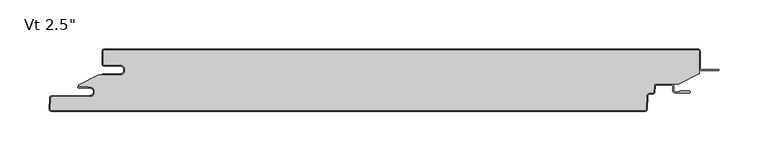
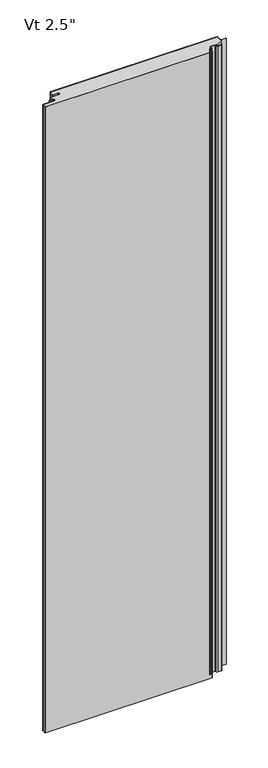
"""IFC4 building model written with IfcOpenShell, lengths in millimetres: plate geometry."""

from ifc_helpers import new_model, si_unit, point, frame, frame_2d, origin, origin_with_axes, place, context, project, spatial, polyline, circle_curve, ellipse_curve, trimmed, segment, composite_curve, outline, extrude, source, transform, mapped, element, save
from ifc_brep_helpers import plane_surface, cylinder_surface, revolved_surface, extruded_surface, advanced_brep


def plate_81533cbf(model_context):
    return source(origin(), model_context, "Body", "SolidModel", [
        extrude(outline(composite_curve([segment(polyline([(-285.74375, -16.4625), (-301.61875, -16.4625)]), True, "CONTINUOUS"), segment(trimmed(circle_curve(frame_2d((-301.61875, -15.08125)), 1.38125), [point((-301.61875, -16.4625))], [point((-303.0, -15.08125))], False, "CARTESIAN"), True, "CONTINUOUS"), segment(polyline([(-303.0, -15.08125), (-303.0, -2.38125)]), True, "CONTINUOUS"), segment(trimmed(circle_curve(frame_2d((-301.61875, -2.38125)), 1.38125), [point((-303.0, -2.38125))], [point((-301.61875, -1.0))], False, "CARTESIAN"), True, "CONTINUOUS"), segment(polyline([(-301.61875, -1.0), (301.63125, -1.0)]), True, "CONTINUOUS"), segment(trimmed(circle_curve(frame_2d((301.63125, -2.38125)), 1.38125), [point((301.63125, -1.0))], [point((303.0125, -2.38125))], False, "CARTESIAN"), True, "CONTINUOUS"), segment(polyline([(303.0125, -2.38125), (303.0125, -24.9057308), (282.1955434, -35.5125), (259.7540783, -35.5125)]), True, "CONTINUOUS"), segment(trimmed(circle_curve(frame_2d((259.7540783, -38.1)), 2.5875), [point((259.7540783, -35.5125))], [point((257.1701244, -37.9645807))], True, "CARTESIAN"), True, "CONTINUOUS"), segment(polyline([(257.1701244, -37.9645807), (256.8680481, -43.728539)]), True, "CONTINUOUS"), segment(trimmed(circle_curve(frame_2d((255.4886911, -43.65625)), 1.38125), [point((256.8680481, -43.728539))], [point((255.4886911, -45.0375))], False, "CARTESIAN"), True, "CONTINUOUS"), segment(polyline([(255.4886911, -45.0375), (252.4448847, -45.0375)]), True, "CONTINUOUS"), segment(trimmed(circle_curve(frame_2d((252.4448847, -47.625)), 2.5875), [point((252.4448847, -45.0375))], [point((249.8609307, -47.4895807))], True, "CARTESIAN"), True, "CONTINUOUS"), segment(polyline([(249.8609307, -47.4895807), (249.1428677, -61.191039)]), True, "CONTINUOUS"), segment(trimmed(circle_curve(frame_2d((247.7635107, -61.11875)), 1.38125), [point((249.1428677, -61.191039))], [point((247.7635107, -62.5))], False, "CARTESIAN"), True, "CONTINUOUS"), segment(polyline([(247.7635107, -62.5), (-355.4799535, -62.5)]), True, "CONTINUOUS"), segment(trimmed(circle_curve(frame_2d((-355.4799535, -61.11875)), 1.38125), [point((-355.4799535, -62.5))], [point((-356.8593106, -61.046461))], False, "CARTESIAN"), True, "CONTINUOUS"), segment(polyline([(-356.8593106, -61.046461), (-356.2769291, -49.933961)]), True, "CONTINUOUS"), segment(trimmed(circle_curve(frame_2d((-354.8975721, -50.00625)), 1.38125), [point((-356.2769291, -49.933961))], [point((-354.8975721, -48.625))], False, "CARTESIAN"), True, "CONTINUOUS"), segment(polyline([(-354.8975721, -48.625), (-316.7142674, -48.625)]), True, "CONTINUOUS"), segment(trimmed(circle_curve(frame_2d((-316.7142674, -43.65625)), 4.96875), [point((-316.7142674, -48.625))], [point((-316.7142674, -38.6875))], True, "CARTESIAN"), True, "CONTINUOUS"), segment(polyline([(-316.7142674, -38.6875), (-318.3017674, -38.89375), (-318.3017674, -38.1), (-327.8125, -38.1), (-327.8125, -36.5326309), (-307.9260922, -26.4), (-285.74375, -26.4)]), True, "CONTINUOUS"), segment(trimmed(circle_curve(frame_2d((-285.74375, -21.43125)), 4.96875), [point((-285.74375, -26.4))], [point((-285.74375, -16.4625))], True, "CARTESIAN"), True, "CONTINUOUS")], self_intersect=False)), origin_with_axes(), (0.0, 0.0, 1.0), 2400.0),
        extrude(outline(composite_curve([segment(polyline([(-304.0, -25.4), (-285.74375, -25.4)]), True, "CONTINUOUS"), segment(trimmed(circle_curve(frame_2d((-285.74375, -21.43125)), 3.96875), [point((-285.74375, -25.4))], [point((-285.74375, -17.4625))], True, "CARTESIAN"), True, "CONTINUOUS"), segment(polyline([(-285.74375, -17.4625), (-301.61875, -17.4625)]), True, "CONTINUOUS"), segment(trimmed(circle_curve(frame_2d((-301.61875, -15.08125)), 2.38125), [point((-301.61875, -17.4625))], [point((-304.0, -15.08125))], False, "CARTESIAN"), True, "CONTINUOUS"), segment(polyline([(-304.0, -15.08125), (-304.0, -2.38125)]), True, "CONTINUOUS"), segment(trimmed(circle_curve(frame_2d((-301.61875, -2.38125)), 2.38125), [point((-304.0, -2.38125))], [point((-301.61875, 0.0))], False, "CARTESIAN"), True, "CONTINUOUS"), segment(polyline([(-301.61875, 0.0), (301.63125, 0.0)]), True, "CONTINUOUS"), segment(trimmed(circle_curve(frame_2d((301.63125, -2.38125)), 2.38125), [point((301.63125, 0.0))], [point((304.0125, -2.38125))], False, "CARTESIAN"), True, "CONTINUOUS"), segment(polyline([(304.0125, -2.38125), (304.0125, -19.446875)]), True, "CONTINUOUS"), segment(trimmed(circle_curve(frame_2d((305.6, -19.446875)), 1.5875), [point((304.0125, -19.446875))], [point((305.6, -21.034375))], True, "CARTESIAN"), True, "CONTINUOUS"), segment(polyline([(305.6, -21.034375), (323.0625, -21.034375), (323.0625, -22.034375), (305.6, -22.034375)]), True, "CONTINUOUS"), segment(trimmed(circle_curve(frame_2d((305.6, -19.446875)), 2.5875), [point((305.6, -22.034375))], [point((303.0125, -19.446875))], False, "CARTESIAN"), True, "CONTINUOUS"), segment(polyline([(303.0125, -19.446875), (303.0125, -2.38125)]), True, "CONTINUOUS"), segment(trimmed(circle_curve(frame_2d((301.63125, -2.38125)), 1.38125), [point((303.0125, -2.38125))], [point((301.63125, -1.0))], True, "CARTESIAN"), True, "CONTINUOUS"), segment(polyline([(301.63125, -1.0), (-301.61875, -1.0)]), True, "CONTINUOUS"), segment(trimmed(circle_curve(frame_2d((-301.61875, -2.38125)), 1.38125), [point((-301.61875, -1.0))], [point((-303.0, -2.38125))], True, "CARTESIAN"), True, "CONTINUOUS"), segment(polyline([(-303.0, -2.38125), (-303.0, -15.08125)]), True, "CONTINUOUS"), segment(trimmed(circle_curve(frame_2d((-301.61875, -15.08125)), 1.38125), [point((-303.0, -15.08125))], [point((-301.61875, -16.4625))], True, "CARTESIAN"), True, "CONTINUOUS"), segment(polyline([(-301.61875, -16.4625), (-285.74375, -16.4625)]), True, "CONTINUOUS"), segment(trimmed(circle_curve(frame_2d((-285.74375, -21.43125)), 4.96875), [point((-285.74375, -16.4625))], [point((-285.74375, -26.4))], False, "CARTESIAN"), True, "CONTINUOUS"), segment(polyline([(-285.74375, -26.4), (-304.0, -26.4), (-304.0, -25.4)]), True, "CONTINUOUS")], self_intersect=False)), origin_with_axes(), (0.0, 0.0, 1.0), 2400.0),
        advanced_brep(
        [(-328.0252049, -38.1, 2400.0), (-328.0252049, -39.6875, 2400.0), (-316.7142674, -39.6875, 2400.0), (-316.7142674, -47.625, 2400.0), (-354.8975721, -47.625, 2400.0), (-357.2755586, -49.881625, 2400.0), (-357.8579401, -60.994125, 2400.0), (-355.4799535, -63.5, 2400.0), (247.7635107, -63.5, 2400.0), (250.1414973, -61.243375, 2400.0), (250.8595603, -47.5419167, 2400.0), (252.4448847, -46.0375, 2400.0), (255.4886911, -46.0375, 2400.0), (257.8666776, -43.780875, 2400.0), (258.1687539, -38.0169167, 2400.0), (259.7540783, -36.5125, 2400.0), (274.6294826, -36.5125, 2400.0), (276.2169826, -38.1, 2400.0), (276.2169826, -42.2671875, 2400.0), (278.5982326, -44.6484375, 2400.0), (293.0898532, -44.6484375, 2400.0), (293.0898532, -42.8546875, 2400.0), (283.3607326, -42.8546875, 2400.0), (283.3607326, -43.6484375, 2400.0), (278.5982326, -43.6484375, 2400.0), (277.2169826, -42.2671875, 2400.0), (277.2169826, -38.1, 2400.0), (274.6294826, -35.5125, 2400.0), (259.7540783, -35.5125, 2400.0), (257.1701244, -37.9645807, 2400.0), (256.8680481, -43.728539, 2400.0), (255.4886911, -45.0375, 2400.0), (252.4448847, -45.0375, 2400.0), (249.8609307, -47.4895807, 2400.0), (249.1428677, -61.191039, 2400.0), (247.7635107, -62.5, 2400.0), (-355.4799535, -62.5, 2400.0), (-356.8593106, -61.046461, 2400.0), (-356.2769291, -49.933961, 2400.0), (-354.8975721, -48.625, 2400.0), (-316.7142674, -48.625, 2400.0), (-316.7142674, -38.6875, 2400.0), (-318.3017674, -38.89375, 2400.0), (-318.3017674, -38.1, 2400.0), (-328.0252049, -38.1, 0.0), (-318.3017674, -38.1, 0.0), (-318.3017674, -38.89375, 0.0), (-316.7142674, -38.6875, 0.0), (-316.7142674, -48.625, 0.0), (-354.8975721, -48.625, 0.0), (-356.2769291, -49.933961, 0.0), (-356.8593106, -61.046461, 0.0), (-355.4799535, -62.5, 0.0), (247.7635107, -62.5, 0.0), (249.1428677, -61.191039, 0.0), (249.8609307, -47.4895807, 0.0), (252.4448847, -45.0375, 0.0), (255.4886911, -45.0375, 0.0), (256.8680481, -43.728539, 0.0), (257.1701244, -37.9645807, 0.0), (259.7540783, -35.5125, 0.0), (274.6294826, -35.5125, 0.0), (277.2169826, -38.1, 0.0), (277.2169826, -42.2671875, 0.0), (278.5982326, -43.6484375, 0.0), (283.3607326, -43.6484375, 0.0), (283.3607326, -42.8546875, 0.0), (293.0898532, -42.8546875, 0.0), (293.0898532, -44.6484375, 0.0), (278.5982326, -44.6484375, 0.0), (276.2169826, -42.2671875, 0.0), (276.2169826, -38.1, 0.0), (274.6294826, -36.5125, 0.0), (259.7540783, -36.5125, 0.0), (258.1687539, -38.0169167, 0.0), (257.8666776, -43.780875, 0.0), (255.4886911, -46.0375, 0.0), (252.4448847, -46.0375, 0.0), (250.8595603, -47.5419167, 0.0), (250.1414973, -61.243375, 0.0), (247.7635107, -63.5, 0.0), (-355.4799535, -63.5, 0.0), (-357.8579401, -60.994125, 0.0), (-357.2755586, -49.881625, 0.0), (-354.8975721, -47.625, 0.0), (-316.7142674, -47.625, 0.0), (-316.7142674, -39.6875, 0.0), (-328.0252049, -39.6875, 0.0)],
        [
            (0, 1, circle_curve(frame((-328.0252049, -38.89375, 2400.0), z_axis=(0.0, 0.0, 1.0), x_axis=(1.0, 0.0, 0.0)), 0.79375)),
            (1, 2),
            (2, 3, circle_curve(frame((-316.7142674, -43.65625, 2400.0), z_axis=(0.0, 0.0, -1.0), x_axis=(1.0, 0.0, 0.0)), 3.96875)),
            (3, 4),
            (4, 5, circle_curve(frame((-354.8975721, -50.00625, 2400.0), z_axis=(0.0, 0.0, 1.0), x_axis=(1.0, 0.0, 0.0)), 2.38125)),
            (5, 6),
            (6, 7, circle_curve(frame((-355.4799535, -61.11875, 2400.0), z_axis=(0.0, 0.0, 1.0), x_axis=(1.0, 0.0, 0.0)), 2.38125)),
            (7, 8),
            (8, 9, circle_curve(frame((247.7635107, -61.11875, 2400.0), z_axis=(0.0, 0.0, 1.0), x_axis=(1.0, 0.0, 0.0)), 2.38125)),
            (9, 10),
            (10, 11, circle_curve(frame((252.4448847, -47.625, 2400.0), z_axis=(0.0, 0.0, -1.0), x_axis=(1.0, 0.0, 0.0)), 1.5875)),
            (11, 12),
            (12, 13, circle_curve(frame((255.4886911, -43.65625, 2400.0), z_axis=(0.0, 0.0, 1.0), x_axis=(1.0, 0.0, 0.0)), 2.38125)),
            (13, 14),
            (14, 15, circle_curve(frame((259.7540783, -38.1, 2400.0), z_axis=(0.0, 0.0, -1.0), x_axis=(1.0, 0.0, 0.0)), 1.5875)),
            (15, 16),
            (16, 17, circle_curve(frame((274.6294826, -38.1, 2400.0), z_axis=(0.0, 0.0, -1.0), x_axis=(1.0, 0.0, 0.0)), 1.5875)),
            (17, 18),
            (18, 19, circle_curve(frame((278.5982326, -42.2671875, 2400.0), z_axis=(0.0, 0.0, 1.0), x_axis=(1.0, 0.0, 0.0)), 2.38125)),
            (19, 20),
            (20, 21, ellipse_curve(frame((293.0898532, -43.7515625, 2400.0), z_axis=(0.0, 0.0, 1.0), x_axis=(0.0, 1.0, 0.0)), 0.896875, 0.7852275)),
            (21, 22),
            (22, 23),
            (23, 24),
            (24, 25, circle_curve(frame((278.5982326, -42.2671875, 2400.0), z_axis=(0.0, 0.0, -1.0), x_axis=(1.0, 0.0, 0.0)), 1.38125)),
            (25, 26),
            (26, 27, circle_curve(frame((274.6294826, -38.1, 2400.0), z_axis=(0.0, 0.0, 1.0), x_axis=(1.0, 0.0, 0.0)), 2.5875)),
            (27, 28),
            (28, 29, circle_curve(frame((259.7540783, -38.1, 2400.0), z_axis=(0.0, 0.0, 1.0), x_axis=(1.0, 0.0, 0.0)), 2.5875)),
            (29, 30),
            (30, 31, circle_curve(frame((255.4886911, -43.65625, 2400.0), z_axis=(0.0, 0.0, -1.0), x_axis=(1.0, 0.0, 0.0)), 1.38125)),
            (31, 32),
            (32, 33, circle_curve(frame((252.4448847, -47.625, 2400.0), z_axis=(0.0, 0.0, 1.0), x_axis=(1.0, 0.0, 0.0)), 2.5875)),
            (33, 34),
            (34, 35, circle_curve(frame((247.7635107, -61.11875, 2400.0), z_axis=(0.0, 0.0, -1.0), x_axis=(1.0, 0.0, 0.0)), 1.38125)),
            (35, 36),
            (36, 37, circle_curve(frame((-355.4799535, -61.11875, 2400.0), z_axis=(0.0, 0.0, -1.0), x_axis=(1.0, 0.0, 0.0)), 1.38125)),
            (37, 38),
            (38, 39, circle_curve(frame((-354.8975721, -50.00625, 2400.0), z_axis=(0.0, 0.0, -1.0), x_axis=(1.0, 0.0, 0.0)), 1.38125)),
            (39, 40),
            (40, 41, circle_curve(frame((-316.7142674, -43.65625, 2400.0), z_axis=(0.0, 0.0, 1.0), x_axis=(1.0, 0.0, 0.0)), 4.96875)),
            (41, 42),
            (42, 43),
            (43, 0),
            (44, 45),
            (45, 46),
            (46, 47),
            (47, 48, circle_curve(frame((-316.7142674, -43.65625, 0.0), z_axis=(0.0, 0.0, -1.0), x_axis=(1.0, 0.0, 0.0)), 4.96875)),
            (48, 49),
            (49, 50, circle_curve(frame((-354.8975721, -50.00625, 0.0), z_axis=(0.0, 0.0, 1.0), x_axis=(1.0, 0.0, 0.0)), 1.38125)),
            (50, 51),
            (51, 52, circle_curve(frame((-355.4799535, -61.11875, 0.0), z_axis=(0.0, 0.0, 1.0), x_axis=(1.0, 0.0, 0.0)), 1.38125)),
            (52, 53),
            (53, 54, circle_curve(frame((247.7635107, -61.11875, 0.0), z_axis=(0.0, 0.0, 1.0), x_axis=(1.0, 0.0, 0.0)), 1.38125)),
            (54, 55),
            (55, 56, circle_curve(frame((252.4448847, -47.625, 0.0), z_axis=(0.0, 0.0, -1.0), x_axis=(1.0, 0.0, 0.0)), 2.5875)),
            (56, 57),
            (57, 58, circle_curve(frame((255.4886911, -43.65625, 0.0), z_axis=(0.0, 0.0, 1.0), x_axis=(1.0, 0.0, 0.0)), 1.38125)),
            (58, 59),
            (59, 60, circle_curve(frame((259.7540783, -38.1, 0.0), z_axis=(0.0, 0.0, -1.0), x_axis=(1.0, 0.0, 0.0)), 2.5875)),
            (60, 61),
            (61, 62, circle_curve(frame((274.6294826, -38.1, 0.0), z_axis=(0.0, 0.0, -1.0), x_axis=(1.0, 0.0, 0.0)), 2.5875)),
            (62, 63),
            (63, 64, circle_curve(frame((278.5982326, -42.2671875, 0.0), z_axis=(0.0, 0.0, 1.0), x_axis=(1.0, 0.0, 0.0)), 1.38125)),
            (64, 65),
            (65, 66),
            (66, 67),
            (67, 68, ellipse_curve(frame((293.0898532, -43.7515625, 0.0), z_axis=(0.0, 0.0, -1.0), x_axis=(0.0, 1.0, 0.0)), 0.896875, 0.7852275)),
            (68, 69),
            (69, 70, circle_curve(frame((278.5982326, -42.2671875, 0.0), z_axis=(0.0, 0.0, -1.0), x_axis=(1.0, 0.0, 0.0)), 2.38125)),
            (70, 71),
            (71, 72, circle_curve(frame((274.6294826, -38.1, 0.0), z_axis=(0.0, 0.0, 1.0), x_axis=(1.0, 0.0, 0.0)), 1.5875)),
            (72, 73),
            (73, 74, circle_curve(frame((259.7540783, -38.1, 0.0), z_axis=(0.0, 0.0, 1.0), x_axis=(1.0, 0.0, 0.0)), 1.5875)),
            (74, 75),
            (75, 76, circle_curve(frame((255.4886911, -43.65625, 0.0), z_axis=(0.0, 0.0, -1.0), x_axis=(1.0, 0.0, 0.0)), 2.38125)),
            (76, 77),
            (77, 78, circle_curve(frame((252.4448847, -47.625, 0.0), z_axis=(0.0, 0.0, 1.0), x_axis=(1.0, 0.0, 0.0)), 1.5875)),
            (78, 79),
            (79, 80, circle_curve(frame((247.7635107, -61.11875, 0.0), z_axis=(0.0, 0.0, -1.0), x_axis=(1.0, 0.0, 0.0)), 2.38125)),
            (80, 81),
            (81, 82, circle_curve(frame((-355.4799535, -61.11875, 0.0), z_axis=(0.0, 0.0, -1.0), x_axis=(1.0, 0.0, 0.0)), 2.38125)),
            (82, 83),
            (83, 84, circle_curve(frame((-354.8975721, -50.00625, 0.0), z_axis=(0.0, 0.0, -1.0), x_axis=(1.0, 0.0, 0.0)), 2.38125)),
            (84, 85),
            (85, 86, circle_curve(frame((-316.7142674, -43.65625, 0.0), z_axis=(0.0, 0.0, 1.0), x_axis=(1.0, 0.0, 0.0)), 3.96875)),
            (86, 87),
            (87, 44, circle_curve(frame((-328.0252049, -38.89375, 0.0), z_axis=(0.0, 0.0, -1.0), x_axis=(1.0, 0.0, 0.0)), 0.79375)),
            (20, 68),
            (67, 21),
            (66, 22),
            (65, 23),
            (41, 47),
            (46, 42),
            (45, 43),
            (40, 48),
            (39, 49),
            (38, 50),
            (37, 51),
            (33, 55),
            (54, 34),
            (32, 56),
            (31, 57),
            (30, 58),
            (29, 59),
            (28, 60),
            (64, 24),
            (63, 25),
            (62, 26),
            (61, 27),
            (18, 70),
            (69, 19),
            (17, 71),
            (16, 72),
            (15, 73),
            (14, 74),
            (13, 75),
            (12, 76),
            (11, 77),
            (10, 78),
            (9, 79),
            (5, 83),
            (82, 6),
            (4, 84),
            (3, 85),
            (2, 86),
            (1, 87),
            (0, 44),
            (36, 52),
            (35, 53),
            (8, 80),
            (7, 81),
        ],
        [
            plane_surface(frame((0.00625, -63.5, 2400.0), z_axis=(0.0, 0.0, 1.0), x_axis=(0.0, -1.0, 0.0))),
            plane_surface(frame((0.00625, -63.5, 0.0), z_axis=(0.0, 0.0, -1.0), x_axis=(0.0, -1.0, 0.0))),
            extruded_surface(trimmed(ellipse_curve(frame((293.0898532, -43.7515625, 2400.0), z_axis=(0.0, 0.0, -1.0), x_axis=(0.0, 1.0, 0.0)), 0.896875, 0.7852275), [point((293.0898532, -42.8546875, 2400.0))], [point((293.0898532, -44.6484375, 2400.0))], True, "CARTESIAN"), (0.0, 0.0, -2400.0), 2400.0),
            plane_surface(frame((283.3607326, -42.8546875, 2400.0), z_axis=(0.0, 1.0, 0.0), x_axis=(0.0, 0.0, -1.0))),
            plane_surface(frame((283.3607326, -43.6484375, 2400.0), z_axis=(-1.0, 0.0, 0.0), x_axis=(0.0, 0.0, -1.0))),
            plane_surface(frame((-318.3017674, -38.89375, 2400.0), z_axis=(-0.12883844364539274, 0.9916655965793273, 0.0), x_axis=(0.0, 0.0, -1.0))),
            plane_surface(frame((-318.3017674, -38.1, 2400.0), z_axis=(1.0, 0.0, 0.0), x_axis=(0.0, 0.0, -1.0))),
            cylinder_surface(frame((-316.7142674, -43.65625, 2400.0), z_axis=(0.0, 0.0, 1.0), x_axis=(1.0, 0.0, 0.0)), 4.96875),
            plane_surface(frame((-316.7142674, -48.625, 2400.0), z_axis=(0.0, -1.0, 0.0), x_axis=(0.0, 0.0, -1.0))),
            revolved_surface(polyline([(-353.51632209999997, -50.00625, 0.0), (-353.51632209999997, -50.00625, 2400.0)]), (-354.8975721, -50.00625, 2400.0), (0.0, 0.0, -1.0)),
            plane_surface(frame((-356.2769291, -49.933961, 2400.0), z_axis=(0.9986295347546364, -0.05233595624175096, 0.0), x_axis=(0.0, 0.0, -1.0))),
            plane_surface(frame((249.1428677, -61.191039, 2400.0), z_axis=(-0.9986295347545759, 0.05233595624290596, 0.0), x_axis=(0.0, 0.0, -1.0))),
            cylinder_surface(frame((252.4448847, -47.625, 2400.0), z_axis=(0.0, 0.0, 1.0), x_axis=(1.0, 0.0, 0.0)), 2.5875),
            plane_surface(frame((252.4448847, -45.0375, 2400.0), z_axis=(0.0, 1.0, 0.0), x_axis=(0.0, 0.0, -1.0))),
            revolved_surface(polyline([(256.8699411, -43.65625, 0.0), (256.8699411, -43.65625, 2400.0)]), (255.4886911, -43.65625, 2400.0), (0.0, 0.0, -1.0)),
            plane_surface(frame((256.8680481, -43.728539, 2400.0), z_axis=(-0.998629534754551, 0.05233595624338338, 0.0), x_axis=(0.0, 0.0, -1.0))),
            cylinder_surface(frame((259.7540783, -38.1, 2400.0), z_axis=(0.0, 0.0, 1.0), x_axis=(1.0, 0.0, 0.0)), 2.5875),
            plane_surface(frame((278.5982326, -43.6484375, 2400.0), z_axis=(0.0, 1.0, 0.0), x_axis=(0.0, 0.0, -1.0))),
            revolved_surface(polyline([(279.97948260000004, -42.2671875, 0.0), (279.97948260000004, -42.2671875, 2400.0)]), (278.5982326, -42.2671875, 2400.0), (0.0, 0.0, -1.0)),
            plane_surface(frame((277.2169826, -38.1, 2400.0), z_axis=(1.0, 0.0, 0.0), x_axis=(0.0, 0.0, -1.0))),
            cylinder_surface(frame((274.6294826, -38.1, 2400.0), z_axis=(0.0, 0.0, 1.0), x_axis=(1.0, 0.0, 0.0)), 2.5875),
            plane_surface(frame((259.7540783, -35.5125, 2400.0), z_axis=(0.0, 1.0, 0.0), x_axis=(0.0, 0.0, -1.0))),
            cylinder_surface(frame((278.5982326, -42.2671875, 2400.0), z_axis=(0.0, 0.0, 1.0), x_axis=(1.0, 0.0, 0.0)), 2.38125),
            plane_surface(frame((276.2169826, -42.2671875, 2400.0), z_axis=(-1.0, 0.0, 0.0), x_axis=(0.0, 0.0, -1.0))),
            revolved_surface(polyline([(276.2169826, -38.1, 0.0), (276.2169826, -38.1, 2400.0)]), (274.6294826, -38.1, 2400.0), (0.0, 0.0, -1.0)),
            plane_surface(frame((274.6294826, -36.5125, 2400.0), z_axis=(0.0, -1.0, 0.0), x_axis=(0.0, 0.0, -1.0))),
            revolved_surface(polyline([(261.3415783, -38.1, 0.0), (261.3415783, -38.1, 2400.0)]), (259.7540783, -38.1, 2400.0), (0.0, 0.0, -1.0)),
            plane_surface(frame((258.1687539, -38.0169167, 2400.0), z_axis=(0.9986295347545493, -0.05233595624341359, 0.0), x_axis=(0.0, 0.0, -1.0))),
            cylinder_surface(frame((255.4886911, -43.65625, 2400.0), z_axis=(0.0, 0.0, 1.0), x_axis=(1.0, 0.0, 0.0)), 2.38125),
            plane_surface(frame((255.4886911, -46.0375, 2400.0), z_axis=(0.0, -1.0, 0.0), x_axis=(0.0, 0.0, -1.0))),
            revolved_surface(polyline([(254.0323847, -47.625, 0.0), (254.0323847, -47.625, 2400.0)]), (252.4448847, -47.625, 2400.0), (0.0, 0.0, -1.0)),
            plane_surface(frame((250.8595603, -47.5419167, 2400.0), z_axis=(0.9986295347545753, -0.052335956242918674, 0.0), x_axis=(0.0, 0.0, -1.0))),
            plane_surface(frame((-357.8579401, -60.994125, 2400.0), z_axis=(-0.9986295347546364, 0.05233595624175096, 0.0), x_axis=(0.0, 0.0, -1.0))),
            cylinder_surface(frame((-354.8975721, -50.00625, 2400.0), z_axis=(0.0, 0.0, 1.0), x_axis=(1.0, 0.0, 0.0)), 2.38125),
            plane_surface(frame((-354.8975721, -47.625, 2400.0), z_axis=(0.0, 1.0, 0.0), x_axis=(0.0, 0.0, -1.0))),
            revolved_surface(polyline([(-312.7455174, -43.65625, 0.0), (-312.7455174, -43.65625, 2400.0)]), (-316.7142674, -43.65625, 2400.0), (0.0, 0.0, -1.0)),
            plane_surface(frame((-316.7142674, -39.6875, 2400.0), z_axis=(0.0, -1.0, 0.0), x_axis=(0.0, 0.0, -1.0))),
            cylinder_surface(frame((-328.0252049, -38.89375, 2400.0), z_axis=(0.0, 0.0, 1.0), x_axis=(1.0, 0.0, 0.0)), 0.79375),
            plane_surface(frame((-328.0252049, -38.1, 2400.0), z_axis=(0.0, 1.0, 0.0), x_axis=(0.0, 0.0, -1.0))),
            revolved_surface(polyline([(-354.0987035, -61.11875, 0.0), (-354.0987035, -61.11875, 2400.0)]), (-355.4799535, -61.11875, 2400.0), (0.0, 0.0, -1.0)),
            plane_surface(frame((-355.4799535, -62.5, 2400.0), z_axis=(0.0, 1.0, 0.0), x_axis=(0.0, 0.0, -1.0))),
            revolved_surface(polyline([(249.1447607, -61.11875, 0.0), (249.1447607, -61.11875, 2400.0)]), (247.7635107, -61.11875, 2400.0), (0.0, 0.0, -1.0)),
            plane_surface(frame((293.0898532, -44.6484375, 2400.0), z_axis=(0.0, -1.0, 0.0), x_axis=(0.0, 0.0, -1.0))),
            cylinder_surface(frame((247.7635107, -61.11875, 2400.0), z_axis=(0.0, 0.0, 1.0), x_axis=(1.0, 0.0, 0.0)), 2.38125),
            plane_surface(frame((247.7635107, -63.5, 2400.0), z_axis=(0.0, -1.0, 0.0), x_axis=(0.0, 0.0, -1.0))),
            cylinder_surface(frame((-355.4799535, -61.11875, 2400.0), z_axis=(0.0, 0.0, 1.0), x_axis=(1.0, 0.0, 0.0)), 2.38125),
        ],
        [
            (0, [[1, 2, 3, 4, 5, 6, 7, 8, 9, 10, 11, 12, 13, 14, 15, 16, 17, 18, 19, 20, 21, 22, 23, 24, 25, 26, 27, 28, 29, 30, 31, 32, 33, 34, 35, 36, 37, 38, 39, 40, 41, 42, 43, 44]]),
            (1, [[45, 46, 47, 48, 49, 50, 51, 52, 53, 54, 55, 56, 57, 58, 59, 60, 61, 62, 63, 64, 65, 66, 67, 68, 69, 70, 71, 72, 73, 74, 75, 76, 77, 78, 79, 80, 81, 82, 83, 84, 85, 86, 87, 88]]),
            (2, [[89, -68, 90, -21]]),
            (3, [[-90, -67, 91, -22]]),
            (4, [[-91, -66, 92, -23]]),
            (5, [[93, -47, 94, -42]]),
            (6, [[-94, -46, 95, -43]]),
            (7, [[96, -48, -93, -41]]),
            (8, [[97, -49, -96, -40]]),
            (9, [[98, -50, -97, -39]]),
            (10, [[99, -51, -98, -38]]),
            (11, [[100, -55, 101, -34]]),
            (12, [[102, -56, -100, -33]]),
            (13, [[103, -57, -102, -32]]),
            (14, [[104, -58, -103, -31]]),
            (15, [[105, -59, -104, -30]]),
            (16, [[106, -60, -105, -29]]),
            (17, [[-92, -65, 107, -24]]),
            (18, [[-107, -64, 108, -25]]),
            (19, [[-108, -63, 109, -26]]),
            (20, [[-109, -62, 110, -27]]),
            (21, [[-110, -61, -106, -28]]),
            (22, [[111, -70, 112, -19]]),
            (23, [[113, -71, -111, -18]]),
            (24, [[114, -72, -113, -17]]),
            (25, [[115, -73, -114, -16]]),
            (26, [[116, -74, -115, -15]]),
            (27, [[117, -75, -116, -14]]),
            (28, [[118, -76, -117, -13]]),
            (29, [[119, -77, -118, -12]]),
            (30, [[120, -78, -119, -11]]),
            (31, [[121, -79, -120, -10]]),
            (32, [[122, -83, 123, -6]]),
            (33, [[124, -84, -122, -5]]),
            (34, [[125, -85, -124, -4]]),
            (35, [[126, -86, -125, -3]]),
            (36, [[127, -87, -126, -2]]),
            (37, [[128, -88, -127, -1]]),
            (38, [[-95, -45, -128, -44]]),
            (39, [[129, -52, -99, -37]]),
            (40, [[130, -53, -129, -36]]),
            (41, [[-101, -54, -130, -35]]),
            (42, [[-112, -69, -89, -20]]),
            (43, [[131, -80, -121, -9]]),
            (44, [[132, -81, -131, -8]]),
            (45, [[-123, -82, -132, -7]]),
        ],
    ),
    ])


if __name__ == "__main__":
    model = new_model("IFC4")
    model_context = context("Model", 3, world=origin())
    ifc_project = project(units=[si_unit("LENGTHUNIT", "METRE", prefix="MILLI")], contexts=[model_context])
    site = spatial("IfcSite", under=ifc_project)
    building = spatial("IfcBuilding", under=site)
    placement = place(None, origin())
    plate_shape = plate_81533cbf(model_context)
    element("IfcPlate", 1, ObjectType="KIP-24-DWTR-R19-CP-Vt-F : Vt 2.5\"", at=placement, inside=building, context=model_context, shape_type="MappedRepresentation", body=[
        mapped(plate_shape, transform((0.0, 0.0, 0.0), x_axis=(1.0, 0.0, 0.0), y_axis=(0.0, 1.0, 0.0), z_axis=(0.0, 0.0, 1.0))),
    ])
    save(model, "model.ifc")
